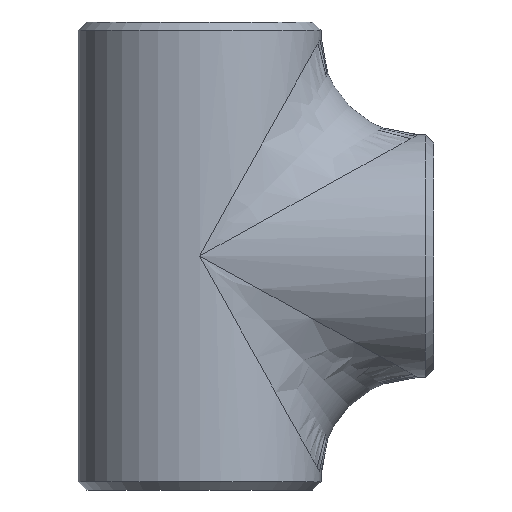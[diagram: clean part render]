
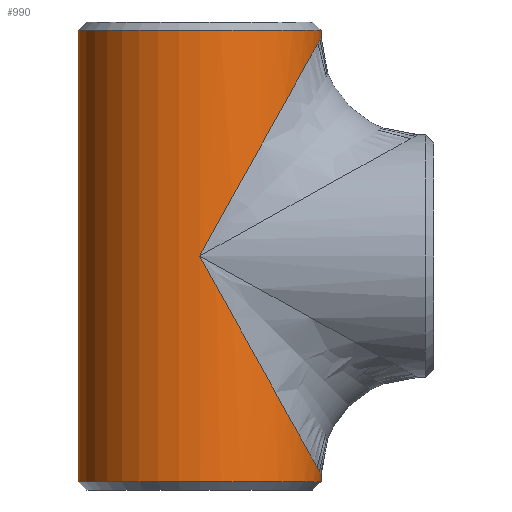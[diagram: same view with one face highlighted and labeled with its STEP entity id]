
A CAD part, front view. The second image highlights one B-rep face of the part: STEP entity #990.
In plain terms, the highlighted cylindrical face has radius 44.45 mm (diameter 88.9 mm), a partial arc.
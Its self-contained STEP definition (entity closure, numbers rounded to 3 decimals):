
#29 = EDGE_CURVE ( 'NONE', #100, #1213, #821, .T. ) ;
#47 = ORIENTED_EDGE ( 'NONE', *, *, #712, .T. ) ;
#100 = VERTEX_POINT ( 'NONE', #314 ) ;
#115 = DIRECTION ( 'NONE',  ( 1., 0., 0. ) ) ;
#161 = CARTESIAN_POINT ( 'NONE',  ( 0., -44.45, 0. ) ) ;
#265 = CARTESIAN_POINT ( 'NONE',  ( 44.45, 0., 85.7 ) ) ;
#314 = CARTESIAN_POINT ( 'NONE',  ( -44.45, 0., 82.66 ) ) ;
#336 = VECTOR ( 'NONE', #800, 1000. ) ;
#347 = VECTOR ( 'NONE', #918, 1000. ) ;
#373 = CARTESIAN_POINT ( 'NONE',  ( 44.45, 0., 85.7 ) ) ;
#401 = CARTESIAN_POINT ( 'NONE',  ( 44.45, 0., 80.01 ) ) ;
#423 = EDGE_CURVE ( 'NONE', #1270, #1227, #1312, .T. ) ;
#477 = DIRECTION ( 'NONE',  ( 0., 0., -1. ) ) ;
#497 = CARTESIAN_POINT ( 'NONE',  ( 0., -44.45, 0. ) ) ;
#509 = CIRCLE ( 'NONE', #794, 44.45 ) ;
#516 = ORIENTED_EDGE ( 'NONE', *, *, #423, .T. ) ;
#532 = VECTOR ( 'NONE', #566, 1000. ) ;
#564 = CARTESIAN_POINT ( 'NONE',  ( 0., 0., 82.66 ) ) ;
#566 = DIRECTION ( 'NONE',  ( 0., 0., -1. ) ) ;
#571 = FACE_OUTER_BOUND ( 'NONE', #1318, .T. ) ;
#586 = ORIENTED_EDGE ( 'NONE', *, *, #1214, .F. ) ;
#606 = VERTEX_POINT ( 'NONE', #1008 ) ;
#612 = CARTESIAN_POINT ( 'NONE',  ( 26.038, -44.45, -46.869 ) ) ;
#683 = VERTEX_POINT ( 'NONE', #1299 ) ;
#686 = CARTESIAN_POINT ( 'NONE',  ( 0., -44.45, 0. ) ) ;
#712 = EDGE_CURVE ( 'NONE', #1213, #1174, #509, .T. ) ;
#729 = CARTESIAN_POINT ( 'NONE',  ( -44.45, 0., 85.7 ) ) ;
#740 =( BOUNDED_CURVE ( )  B_SPLINE_CURVE ( 3, ( #1030, #823, #612, #161 ),
 .UNSPECIFIED., .F., .T. ) 
 B_SPLINE_CURVE_WITH_KNOTS ( ( 4, 4 ),
 ( 3.142, 4.712 ),
 .UNSPECIFIED. ) 
 CURVE ( )  GEOMETRIC_REPRESENTATION_ITEM ( )  RATIONAL_B_SPLINE_CURVE ( ( 1., 0.805, 0.805, 1. ) ) 
 REPRESENTATION_ITEM ( '' )  );
#744 = CARTESIAN_POINT ( 'NONE',  ( 0., 0., -82.66 ) ) ;
#768 = CARTESIAN_POINT ( 'NONE',  ( 44.45, -26.038, 80.01 ) ) ;
#794 = AXIS2_PLACEMENT_3D ( 'NONE', #744, #1172, #115 ) ;
#800 = DIRECTION ( 'NONE',  ( 0., 0., -1. ) ) ;
#821 = LINE ( 'NONE', #729, #347 ) ;
#823 = CARTESIAN_POINT ( 'NONE',  ( 44.45, -26.038, -80.01 ) ) ;
#899 = CARTESIAN_POINT ( 'NONE',  ( 44.45, 0., -82.66 ) ) ;
#900 = CARTESIAN_POINT ( 'NONE',  ( 26.038, -44.45, 46.869 ) ) ;
#918 = DIRECTION ( 'NONE',  ( 0., 0., -1. ) ) ;
#932 = ORIENTED_EDGE ( 'NONE', *, *, #29, .T. ) ;
#939 = EDGE_CURVE ( 'NONE', #683, #1174, #994, .T. ) ;
#948 = ORIENTED_EDGE ( 'NONE', *, *, #1344, .T. ) ;
#976 = ORIENTED_EDGE ( 'NONE', *, *, #939, .F. ) ;
#990 = ADVANCED_FACE ( 'NONE', ( #571 ), #1313, .T. ) ;
#994 = LINE ( 'NONE', #265, #532 ) ;
#1008 = CARTESIAN_POINT ( 'NONE',  ( 44.45, 0., 82.66 ) ) ;
#1009 = CARTESIAN_POINT ( 'NONE',  ( 0., 0., 85.7 ) ) ;
#1014 = EDGE_CURVE ( 'NONE', #606, #100, #1241, .T. ) ;
#1030 = CARTESIAN_POINT ( 'NONE',  ( 44.45, 0., -80.01 ) ) ;
#1097 = DIRECTION ( 'NONE',  ( 1., 0., 0. ) ) ;
#1117 = CARTESIAN_POINT ( 'NONE',  ( 44.45, 0., 80.01 ) ) ;
#1135 = AXIS2_PLACEMENT_3D ( 'NONE', #1009, #1320, #1302 ) ;
#1139 = ORIENTED_EDGE ( 'NONE', *, *, #1014, .T. ) ;
#1172 = DIRECTION ( 'NONE',  ( 0., 0., 1. ) ) ;
#1174 = VERTEX_POINT ( 'NONE', #899 ) ;
#1180 = AXIS2_PLACEMENT_3D ( 'NONE', #564, #477, #1097 ) ;
#1213 = VERTEX_POINT ( 'NONE', #1242 ) ;
#1214 = EDGE_CURVE ( 'NONE', #606, #1227, #1326, .T. ) ;
#1227 = VERTEX_POINT ( 'NONE', #401 ) ;
#1241 = CIRCLE ( 'NONE', #1180, 44.45 ) ;
#1242 = CARTESIAN_POINT ( 'NONE',  ( -44.45, 0., -82.66 ) ) ;
#1270 = VERTEX_POINT ( 'NONE', #497 ) ;
#1299 = CARTESIAN_POINT ( 'NONE',  ( 44.45, 0., -80.01 ) ) ;
#1302 = DIRECTION ( 'NONE',  ( -1., 0., 0. ) ) ;
#1312 =( BOUNDED_CURVE ( )  B_SPLINE_CURVE ( 3, ( #686, #900, #768, #1117 ),
 .UNSPECIFIED., .F., .T. ) 
 B_SPLINE_CURVE_WITH_KNOTS ( ( 4, 4 ),
 ( 1.571, 3.142 ),
 .UNSPECIFIED. ) 
 CURVE ( )  GEOMETRIC_REPRESENTATION_ITEM ( )  RATIONAL_B_SPLINE_CURVE ( ( 1., 0.805, 0.805, 1. ) ) 
 REPRESENTATION_ITEM ( '' )  );
#1313 = CYLINDRICAL_SURFACE ( 'NONE', #1135, 44.45 ) ;
#1318 = EDGE_LOOP ( 'NONE', ( #586, #1139, #932, #47, #976, #948, #516 ) ) ;
#1320 = DIRECTION ( 'NONE',  ( 0., 0., -1. ) ) ;
#1326 = LINE ( 'NONE', #373, #336 ) ;
#1344 = EDGE_CURVE ( 'NONE', #683, #1270, #740, .T. ) ;
